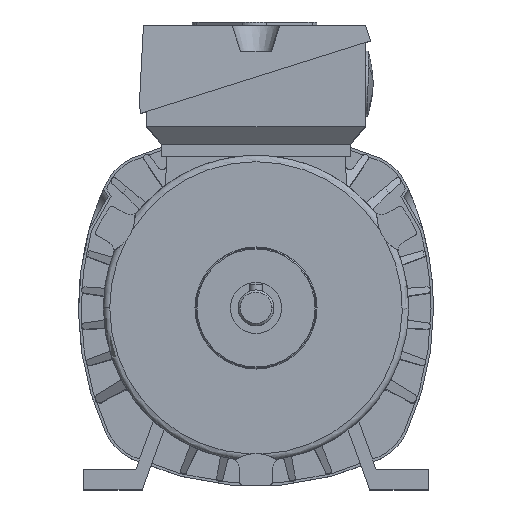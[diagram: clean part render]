
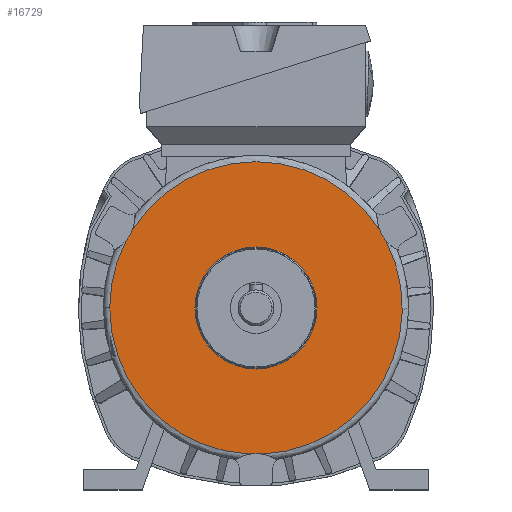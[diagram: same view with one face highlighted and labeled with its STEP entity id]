
A CAD part, top view. The second image highlights one B-rep face of the part: STEP entity #16729.
In plain terms, the highlighted planar face has unit normal (0, 0, 1).
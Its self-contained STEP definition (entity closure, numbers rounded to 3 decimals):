
#32 = EDGE_CURVE ( 'NONE', #17164, #4375, #12296, .T. ) ;
#423 = EDGE_CURVE ( 'NONE', #10449, #16958, #14607, .T. ) ;
#452 = CARTESIAN_POINT ( 'NONE',  ( 2.431, -57.198, 21. ) ) ;
#536 = CIRCLE ( 'NONE', #15763, 57.25 ) ;
#777 = DIRECTION ( 'NONE',  ( 0., 0., -1. ) ) ;
#955 = AXIS2_PLACEMENT_3D ( 'NONE', #3604, #15161, #5249 ) ;
#1427 = ORIENTED_EDGE ( 'NONE', *, *, #4098, .T. ) ;
#1562 = CARTESIAN_POINT ( 'NONE',  ( -48.32, 30.705, 21. ) ) ;
#1713 = DIRECTION ( 'NONE',  ( 0., 0., -1. ) ) ;
#1993 = CARTESIAN_POINT ( 'NONE',  ( -23.9, 0., 21. ) ) ;
#2053 = EDGE_CURVE ( 'NONE', #4375, #10079, #11676, .T. ) ;
#3442 = AXIS2_PLACEMENT_3D ( 'NONE', #6246, #17768, #7867 ) ;
#3576 = CARTESIAN_POINT ( 'NONE',  ( 0., 0., 21. ) ) ;
#3604 = CARTESIAN_POINT ( 'NONE',  ( 0., 0., 21. ) ) ;
#3851 = ORIENTED_EDGE ( 'NONE', *, *, #2053, .F. ) ;
#4098 = EDGE_CURVE ( 'NONE', #15546, #10079, #8444, .T. ) ;
#4375 = VERTEX_POINT ( 'NONE', #18938 ) ;
#4516 = PLANE ( 'NONE',  #3442 ) ;
#5206 = DIRECTION ( 'NONE',  ( -1., 0., 0. ) ) ;
#5249 = DIRECTION ( 'NONE',  ( -1., 0., 0. ) ) ;
#5291 = EDGE_LOOP ( 'NONE', ( #6088, #8051 ) ) ;
#5455 = AXIS2_PLACEMENT_3D ( 'NONE', #11592, #1713, #13240 ) ;
#5587 = ORIENTED_EDGE ( 'NONE', *, *, #32, .F. ) ;
#5797 = CIRCLE ( 'NONE', #16274, 23.9 ) ;
#6088 = ORIENTED_EDGE ( 'NONE', *, *, #15880, .T. ) ;
#6148 = DIRECTION ( 'NONE',  ( 0., 0., -1. ) ) ;
#6246 = CARTESIAN_POINT ( 'NONE',  ( 0., 57.25, 21. ) ) ;
#6636 = CARTESIAN_POINT ( 'NONE',  ( 23.9, 0., 21. ) ) ;
#7239 = CARTESIAN_POINT ( 'NONE',  ( 0., 0., 21. ) ) ;
#7867 = DIRECTION ( 'NONE',  ( 1., 0., 0. ) ) ;
#7910 = CARTESIAN_POINT ( 'NONE',  ( 62.354, 36., 21. ) ) ;
#8051 = ORIENTED_EDGE ( 'NONE', *, *, #13167, .T. ) ;
#8444 = CIRCLE ( 'NONE', #5455, 15. ) ;
#8872 = DIRECTION ( 'NONE',  ( -1., 0., 0. ) ) ;
#8965 = FACE_OUTER_BOUND ( 'NONE', #13432, .T. ) ;
#9346 = DIRECTION ( 'NONE',  ( 0., 0., -1. ) ) ;
#9565 = DIRECTION ( 'NONE',  ( 1., 0., 0. ) ) ;
#9669 = DIRECTION ( 'NONE',  ( 0., 0., -1. ) ) ;
#9806 = CIRCLE ( 'NONE', #17367, 57.25 ) ;
#10079 = VERTEX_POINT ( 'NONE', #18064 ) ;
#10449 = VERTEX_POINT ( 'NONE', #17250 ) ;
#10698 = CARTESIAN_POINT ( 'NONE',  ( 0., 0., 21. ) ) ;
#10767 = AXIS2_PLACEMENT_3D ( 'NONE', #7910, #19472, #9565 ) ;
#10985 = EDGE_CURVE ( 'NONE', #17164, #16471, #15222, .T. ) ;
#11198 = VERTEX_POINT ( 'NONE', #6636 ) ;
#11331 = VERTEX_POINT ( 'NONE', #1993 ) ;
#11341 = AXIS2_PLACEMENT_3D ( 'NONE', #7239, #18784, #8872 ) ;
#11592 = CARTESIAN_POINT ( 'NONE',  ( -62.354, 36., 21. ) ) ;
#11676 = CIRCLE ( 'NONE', #955, 57.25 ) ;
#12296 = CIRCLE ( 'NONE', #12721, 57.25 ) ;
#12324 = ORIENTED_EDGE ( 'NONE', *, *, #10985, .T. ) ;
#12350 = DIRECTION ( 'NONE',  ( -1., 0., 0. ) ) ;
#12721 = AXIS2_PLACEMENT_3D ( 'NONE', #3576, #15129, #5206 ) ;
#13167 = EDGE_CURVE ( 'NONE', #11198, #11331, #19674, .T. ) ;
#13231 = EDGE_CURVE ( 'NONE', #10449, #16471, #536, .T. ) ;
#13240 = DIRECTION ( 'NONE',  ( 1., 0., 0. ) ) ;
#13368 = FACE_BOUND ( 'NONE', #5291, .T. ) ;
#13432 = EDGE_LOOP ( 'NONE', ( #17834, #1427, #3851, #5587, #12324, #18641, #19215 ) ) ;
#13768 = EDGE_CURVE ( 'NONE', #15546, #16958, #9806, .T. ) ;
#14607 = CIRCLE ( 'NONE', #10767, 15. ) ;
#15047 = CARTESIAN_POINT ( 'NONE',  ( 48.32, 30.705, 21. ) ) ;
#15129 = DIRECTION ( 'NONE',  ( 0., 0., -1. ) ) ;
#15161 = DIRECTION ( 'NONE',  ( 0., 0., -1. ) ) ;
#15222 = CIRCLE ( 'NONE', #17158, 15. ) ;
#15546 = VERTEX_POINT ( 'NONE', #1562 ) ;
#15763 = AXIS2_PLACEMENT_3D ( 'NONE', #10698, #777, #12350 ) ;
#15880 = EDGE_CURVE ( 'NONE', #11331, #11198, #5797, .T. ) ;
#16013 = CARTESIAN_POINT ( 'NONE',  ( 0., 0., 21. ) ) ;
#16128 = CARTESIAN_POINT ( 'NONE',  ( -2.431, -57.198, 21. ) ) ;
#16274 = AXIS2_PLACEMENT_3D ( 'NONE', #19569, #9669, #21181 ) ;
#16471 = VERTEX_POINT ( 'NONE', #452 ) ;
#16729 = ADVANCED_FACE ( 'NONE', ( #13368, #8965 ), #4516, .T. ) ;
#16958 = VERTEX_POINT ( 'NONE', #15047 ) ;
#17158 = AXIS2_PLACEMENT_3D ( 'NONE', #19255, #9346, #20876 ) ;
#17164 = VERTEX_POINT ( 'NONE', #16128 ) ;
#17250 = CARTESIAN_POINT ( 'NONE',  ( 50.751, 26.494, 21. ) ) ;
#17367 = AXIS2_PLACEMENT_3D ( 'NONE', #16013, #6148, #17681 ) ;
#17681 = DIRECTION ( 'NONE',  ( -1., 0., 0. ) ) ;
#17768 = DIRECTION ( 'NONE',  ( 0., 0., 1. ) ) ;
#17834 = ORIENTED_EDGE ( 'NONE', *, *, #13768, .F. ) ;
#18064 = CARTESIAN_POINT ( 'NONE',  ( -50.751, 26.494, 21. ) ) ;
#18641 = ORIENTED_EDGE ( 'NONE', *, *, #13231, .F. ) ;
#18784 = DIRECTION ( 'NONE',  ( 0., 0., -1. ) ) ;
#18938 = CARTESIAN_POINT ( 'NONE',  ( -57.25, 0., 21. ) ) ;
#19215 = ORIENTED_EDGE ( 'NONE', *, *, #423, .T. ) ;
#19255 = CARTESIAN_POINT ( 'NONE',  ( 0., -72., 21. ) ) ;
#19472 = DIRECTION ( 'NONE',  ( 0., 0., -1. ) ) ;
#19569 = CARTESIAN_POINT ( 'NONE',  ( 0., 0., 21. ) ) ;
#19674 = CIRCLE ( 'NONE', #11341, 23.9 ) ;
#20876 = DIRECTION ( 'NONE',  ( 1., 0., 0. ) ) ;
#21181 = DIRECTION ( 'NONE',  ( -1., 0., 0. ) ) ;
